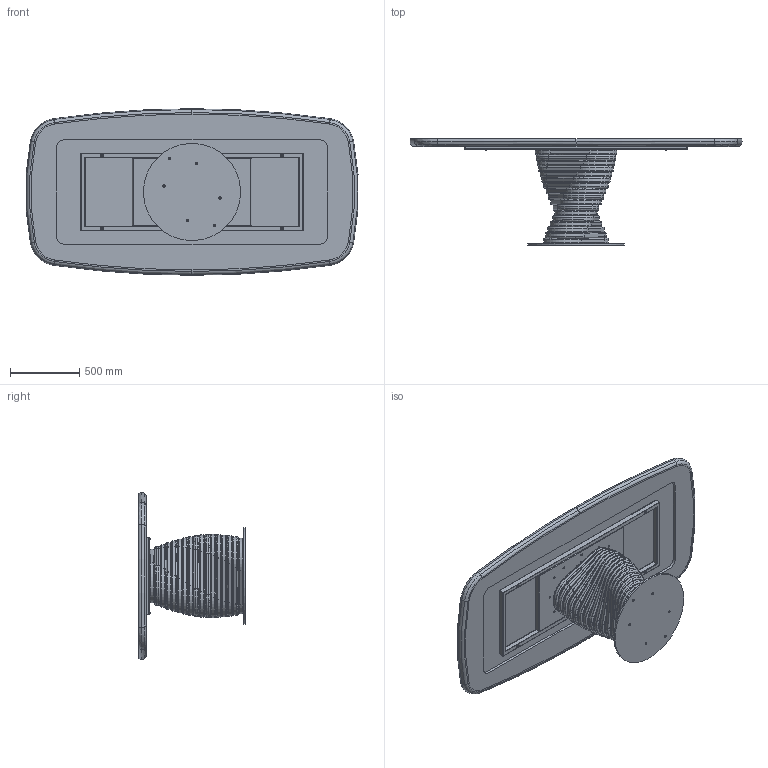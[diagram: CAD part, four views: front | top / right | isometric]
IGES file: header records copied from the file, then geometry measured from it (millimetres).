
Start section: SolidWorks IGES file using analytic representation for surfaces
Global section: file name: Y:\eforma\TECNICO\SOLIDWORKS\E-FORMA\1-TAVOLI\ROTOLO\08 modelli 3D web\RO22K_Rotolo_240x120_King.IGS; native system: SolidWorks 2022; preprocessor: SolidWorks 2022; author: eforma.tech; date: 240802.093659; units: millimetre
Bounding box: 2391.93 x 768 x 1200 mm (x, y, z)
Volume: 129421513.3 mm3; surface area: 18662861.2 mm2
Topology: 81 solids, 81 shells, 1317 faces, 3236 edges, 2058 vertices
Faces by surface type: revolution 831, plane 486
